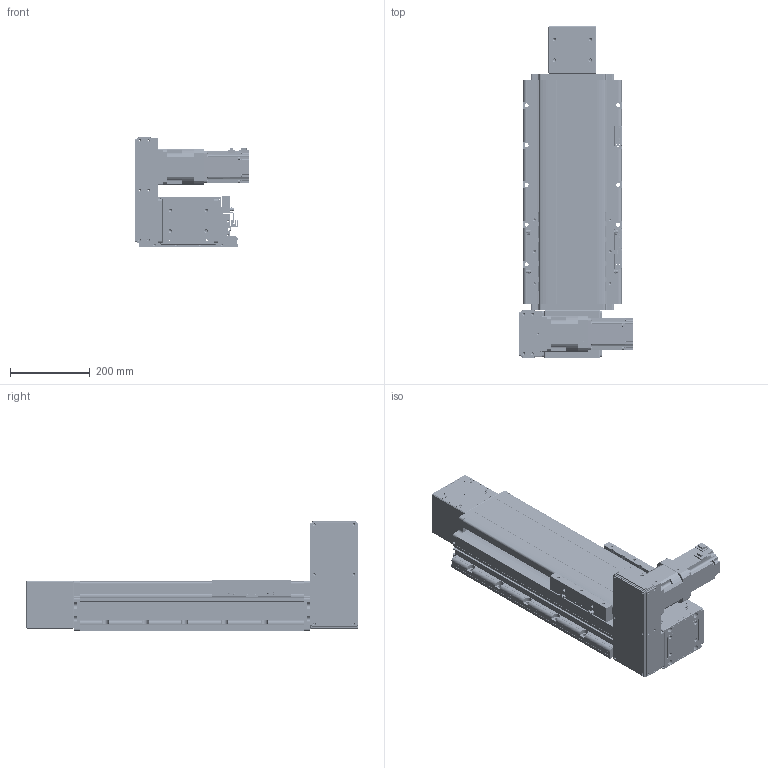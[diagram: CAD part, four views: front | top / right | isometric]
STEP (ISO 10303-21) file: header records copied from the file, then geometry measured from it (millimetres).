
FILE_DESCRIPTION(/* description */ (''),/* implementation_level */ '2;1');
FILE_NAME(/* name */ '\\192.168.0.160\disk1\HAN SHIN Master\B-설계부문\C-표준\B-2024년\BC02-표준도면\+로봇 개선표준도면\홈페이지 표준 도면\홈페이지 최종 작업 폴더\3D\HSB\HSB210\UL\HSB210-UL7G-N-0300-R.stp',/* time_stamp */ '2025-06-19T09:24:23+09:00',/* author */ ('user'),/* organization */ (''),/* preprocessor_version */ 'ST-DEVELOPER v18.1',/* originating_system */ 'Autodesk Inventor 2022',/* authorisation */ '');
FILE_SCHEMA (('AUTOMOTIVE_DESIGN { 1 0 10303 214 3 1 1 }'));
Products named in the file (37): HSB210-UL7G-N-0500-R; HSB210 BASE - 2000ST; HSB210 FORNT HOUSUNG-Connecting Shaft; HSB160 SHAFT-1; HSB160 BEARING OVER; HSB210 FRONT COVER; REAR HOUSUNG-1-R1; HSB160 ARC COVER; HSB160 REAR SHAFT-2; REAR SHAFT--2; 6004ZZ; 6004ZZ Outer ring; 6004ZZ Shield1; 6004ZZ Inner ring; 6004ZZ Ball; 6004ZZ Shield2; UPCOVER; SIDE COVER; PGX90-H-1_3; HR200 SENSOR DOG; hsr_ftht_A-M6F_grease_nipple_joint; NIPPLE CAP(신규); SENSOR BRK(EE-SX674A); EE_SX674A; 6308ZZ; TENSION PLATE; HSB210 END COVER-1; HG90STOPPER - 27L; HSB210 TABLE (TEST); hg-kr73_; HSB210 U MOTOR PLATE ASSY; HSB210 D BELT COVER-R1; HG200DACRYLCOVER003; 750W MOTOR PLATE; HSB210 U BELT COVER; HG200DACRYLCOVER001; HG200DACRYLCOVER002
Assembly tree (70 placements, depth 3):
  HSB210-UL7G-N-0500-R
    HSB210 BASE - 2000ST
    HSB210 FRONT COVER  x2
    HSB210 FORNT HOUSUNG-Connecting Shaft
    HSB160 SHAFT-1
    HSB160 BEARING OVER
    HSB160 ARC COVER  x4
    REAR HOUSUNG-1-R1
    HSB160 REAR SHAFT-2
    REAR SHAFT--2
    6004ZZ  x2
      6004ZZ Outer ring
      6004ZZ Shield1
      6004ZZ Inner ring
      6004ZZ Ball
      6004ZZ Shield2
    TENSION PLATE  x2
    UPCOVER
    SIDE COVER  x2
    PGX90-H-1_3
    HG90STOPPER - 27L  x4
    HR200 SENSOR DOG
    SENSOR BRK(EE-SX674A)  x3
    EE_SX674A  x3
    NIPPLE CAP(신규)  x4
    hsr_ftht_A-M6F_grease_nipple_joint  x4
    6308ZZ  x2
    HSB210 END COVER-1
    HSB210 TABLE (TEST)
    hg-kr73_
    HSB210 U MOTOR PLATE ASSY
      HSB210 D BELT COVER-R1
      HG200DACRYLCOVER003
      750W MOTOR PLATE
      HSB210 U BELT COVER
      HG200DACRYLCOVER001
      HG200DACRYLCOVER002  x2
Bounding box: 284.5 x 834 x 278.5 mm (x, y, z)
Volume: 10158922.7 mm3; surface area: 2351462.2 mm2
Topology: 131 solids, 133 shells, 7889 faces, 21913 edges, 14477 vertices
Faces by surface type: plane 5961, cylinder 1380, cone 380, sphere 84, torus 59, bspline 25
Full cylindrical faces by diameter (mm): 2.013 x2, 2.459 x50, 3 x8, 3.2 x4, 3.242 x48, 3.4 x22, 3.5 x6, 4.134 x2, 4.2 x16, 4.5 x36, 4.917 x36, 5 x56, 5.1 x1, 5.5 x13, 5.6 x4, 5.9 x4, 6 x15, 6.5 x9, 6.6 x8, 6.647 x40, 6.8 x9, 7 x20, 7.6 x4, 8 x13, 8.433 x2, 9 x46, 9.5 x7, 10 x5, 10.106 x10, 11 x20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
Entity records: 171007 total; most frequent: CARTESIAN_POINT 33370, ORIENTED_EDGE 28512, DIRECTION 27256, EDGE_CURVE 14256, LINE 11148, VECTOR 11148, VERTEX_POINT 9502, AXIS2_PLACEMENT_3D 8054
